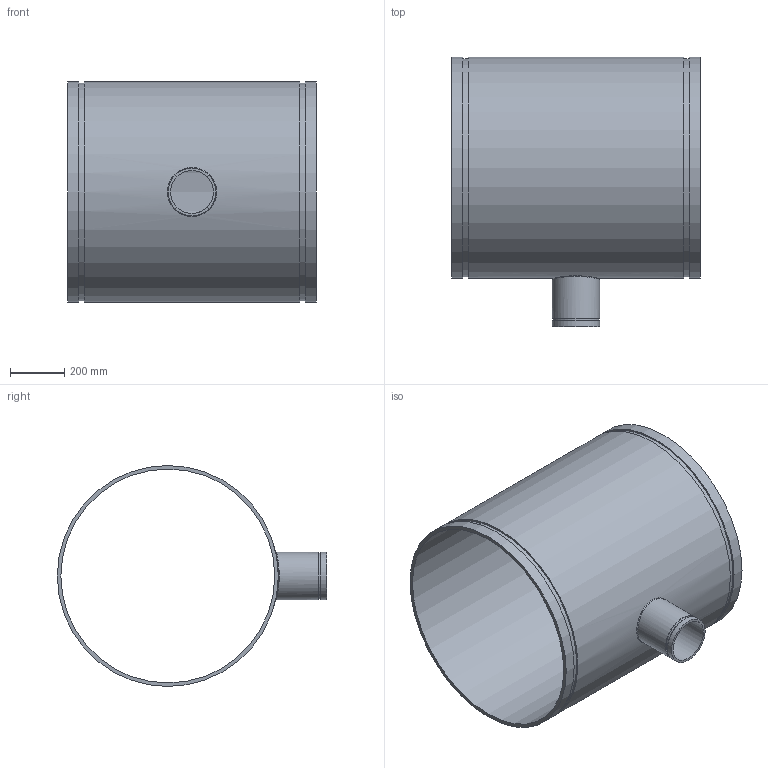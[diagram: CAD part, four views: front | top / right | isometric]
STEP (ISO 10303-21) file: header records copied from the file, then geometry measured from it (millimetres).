
FILE_DESCRIPTION(/* description */ ('VIC REDUCING TEE No 25-C','CAx-IF Rec.Pracs.---Representation and Presentation of Product Manufacturing Information (PMI)---4.0---2014-10-13'),/* implementation_level */ '2;1');
FILE_NAME(/* name */ 'C:\Users\Vjadhav\AppData\Roaming\Autodesk\ApplicationPlugins\Back Up\Victaulic_AWWA_Tee Reducing_No 25-C (DRG)\Victaulic_AWWA_Tee Reducing_No 25-C (DRG)_30.0x06.0 (750x150).stp',/* time_stamp */ '2020-08-18T18:19:08+06:00',/* author */ ('CORINNE GRAY'),/* organization */ ('Victaulic'),/* preprocessor_version */ 'ST-DEVELOPER v17.2',/* originating_system */ 'Autodesk Inventor 2019',/* authorisation */ '');
FILE_SCHEMA (('AP242_MANAGED_MODEL_BASED_3D_ENGINEERING_MIM_LF { 1 0 10303 442 1 1 4 }'));
Length unit declared in the file: inch
Products named in the file (1): 25C-30.0x06.0
Bounding box: 914.4 x 990.6 x 812.8 mm (x, y, z)
Volume: 29765972.4 mm3; surface area: 4877405.8 mm2
Topology: 1 solids, 1 shells, 20 faces, 44 edges, 33 vertices
Faces by surface type: cylinder 10, plane 9, bspline 1
Full cylindrical faces by diameter (mm): 157.988 x1, 169.062 x1, 175.26 x2, 786.892 x1, 801.37 x2, 812.8 x3
Entity records: 975 total; most frequent: CARTESIAN_POINT 351, DIRECTION 135, ORIENTED_EDGE 90, AXIS2_PLACEMENT_3D 62, EDGE_CURVE 45, VERTEX_POINT 34, EDGE_LOOP 31, CIRCLE 29
